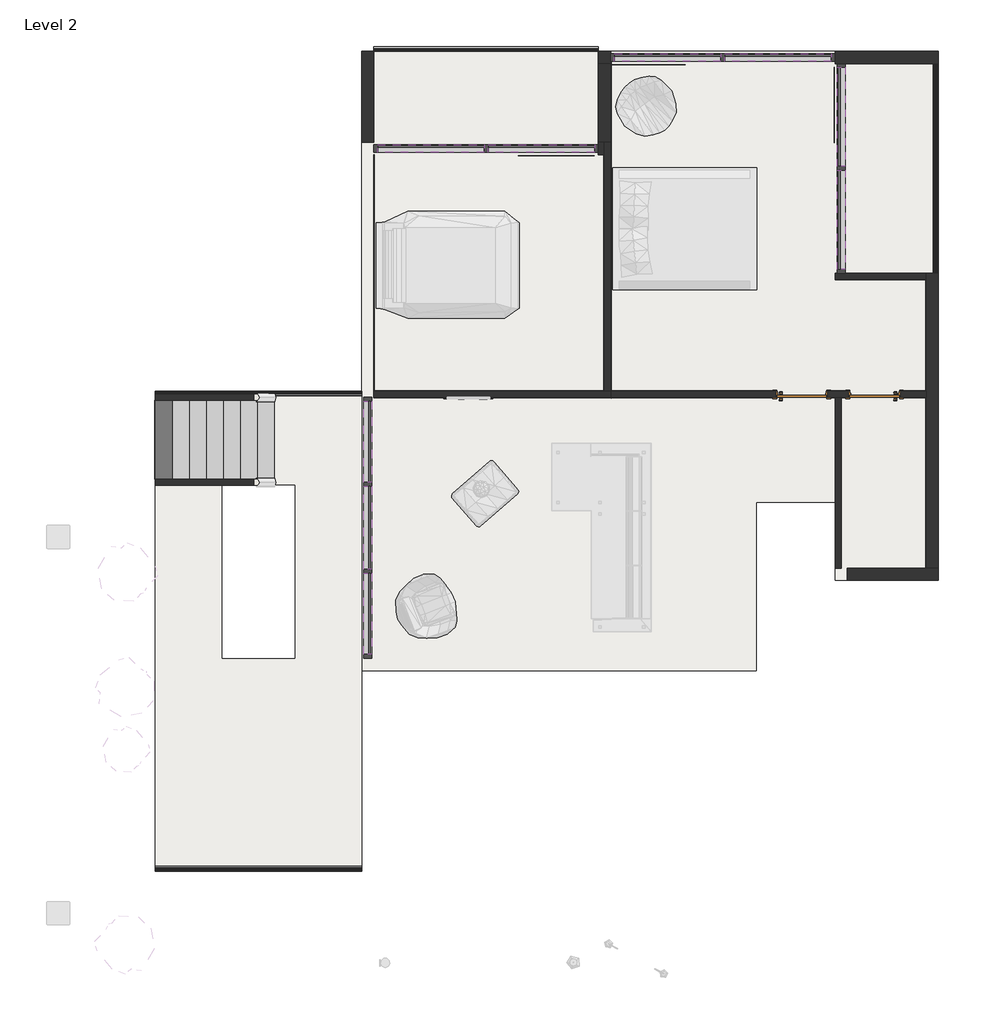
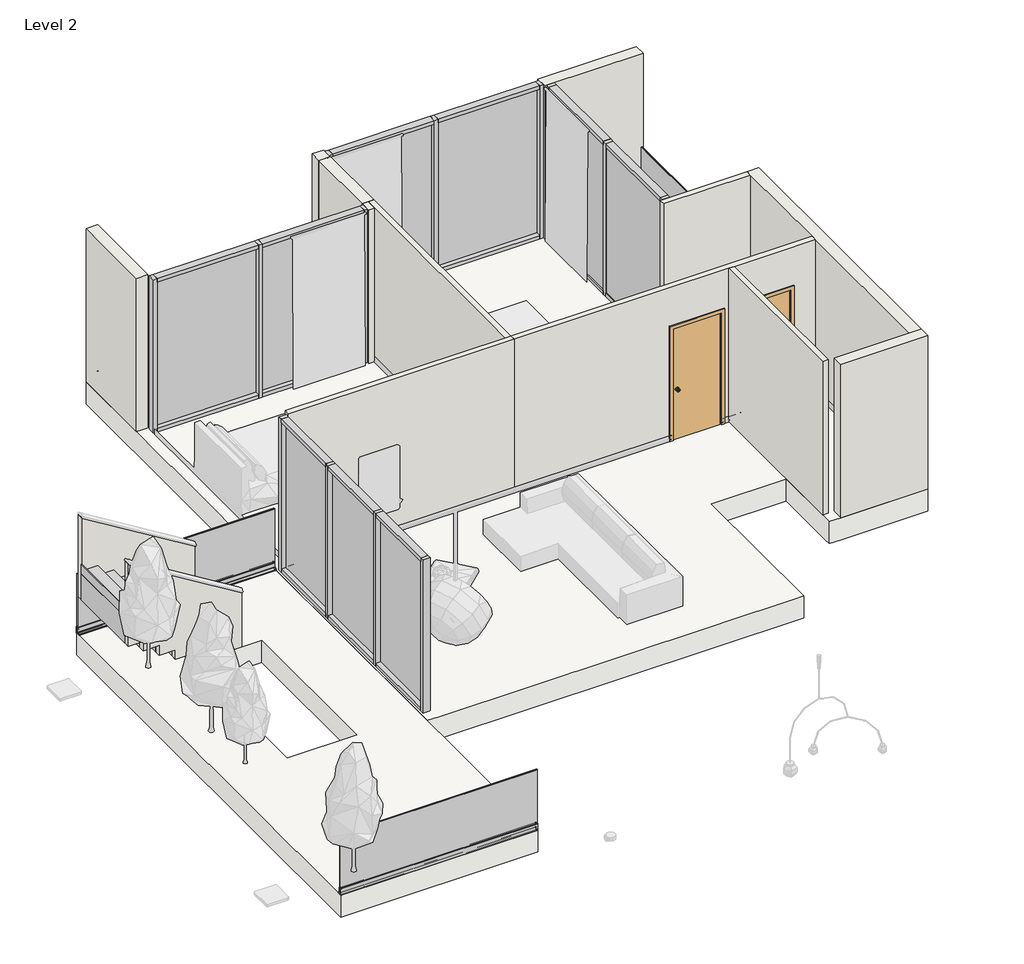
# One storey, part 1 of 4: 31 members, 13 walls, 9 plates, 4 railings, 2 doors, 2 slabs, 1 stair flight.
"""IFC4 building model written with IfcOpenShell, lengths in millimetres."""

from ifc_helpers import new_model, si_unit, frame, origin, place, context, project, spatial, polyline, outline, extrude, faceted_brep, transform, mapped, element, save
from components import door_interior_single_flush_panel_wood_door_interior_single_6c8a464a, door_interior_single_flush_panel_wood_door_interior_single_45b1ecc8, rectangular_mullion_rectangular_mullion_1_b61fd584, rectangular_mullion_rectangular_mullion_1_bbb34006, rectangular_mullion_rectangular_mullion_1_74c23462, rectangular_mullion_rectangular_mullion_1_bf3e4f7e, rectangular_mullion_rectangular_mullion_1_7a1af1f4, rectangular_mullion_rectangular_mullion_1_694252b1, system_panel_glazed_9b324d6a, system_panel_glazed_6573672e, system_panel_glazed_77a44a71, system_panel_glazed_dbac97f0, railing_b5ce3a73, railing_0a93fae2, railing_5e96fa47, railing_be181984

model = new_model("IFC4")

# Units and contexts
model_context = context("Model", 3, world=origin())
ifc_project = project(units=[si_unit("LENGTHUNIT", "METRE", prefix="MILLI")], contexts=[model_context])

# Site, building, storey
site = spatial("IfcSite", under=ifc_project)
building = spatial("IfcBuilding", under=site)
storey = spatial("IfcBuildingStorey", under=building, Name="Level 2", Elevation=4200.0)

# Doors
placement = place(None, origin())
door_interior_single_flush_panel_wood_door_interior_single_shape = door_interior_single_flush_panel_wood_door_interior_single_6c8a464a(model_context)
element("IfcDoor", 1, ObjectType="Door-Interior-Single-Flush_Panel-Wood : Door-Interior-Single-Flush_Panel-Wood", at=placement, inside=storey, context=model_context, shape_type="MappedRepresentation", body=[
    mapped(door_interior_single_flush_panel_wood_door_interior_single_shape, transform((23993.1337784, 13113.7456658, 4200.0), x_axis=(1.0, 0.0, 0.0), y_axis=(0.0, 1.0, 0.0), z_axis=(0.0, 0.0, 1.0))),
])
door_interior_single_flush_panel_wood_door_interior_single_2_shape = door_interior_single_flush_panel_wood_door_interior_single_45b1ecc8(model_context)
element("IfcDoor", 2, ObjectType="Door-Interior-Single-Flush_Panel-Wood : Door-Interior-Single-Flush_Panel-Wood", at=placement, inside=storey, context=model_context, shape_type="MappedRepresentation", body=[
    mapped(door_interior_single_flush_panel_wood_door_interior_single_2_shape, transform((25193.1337784, 13113.7456658, 4200.0), x_axis=(-1.0, 0.0, 0.0), y_axis=(0.0, -1.0, 0.0), z_axis=(0.0, 0.0, 1.0))),
])

# Members
rectangular_mullion_rectangular_mullion_1_shape = rectangular_mullion_rectangular_mullion_1_b61fd584(model_context)
element("IfcMember", 3, ObjectType="Rectangular Mullion : Rectangular Mullion 1", at=placement, inside=storey, context=model_context, shape_type="MappedRepresentation", body=[
    mapped(rectangular_mullion_rectangular_mullion_1_shape, transform((22693.1337784, 18666.9206658, 4200.0), x_axis=(1.0, 0.0, 0.0), y_axis=(0.0, -1.0, 0.0), z_axis=(0.0, 0.0, -1.0))),
])
element("IfcMember", 4, ObjectType="Rectangular Mullion : Rectangular Mullion 1", at=placement, inside=storey, context=model_context, shape_type="MappedRepresentation", body=[
    mapped(rectangular_mullion_rectangular_mullion_1_shape, transform((18793.1337784, 17166.9206658, 4200.0), x_axis=(1.0, 0.0, 0.0), y_axis=(0.0, -1.0, 0.0), z_axis=(0.0, 0.0, -1.0))),
])
element("IfcMember", 5, ObjectType="Rectangular Mullion : Rectangular Mullion 1", at=placement, inside=storey, context=model_context, shape_type="MappedRepresentation", body=[
    mapped(rectangular_mullion_rectangular_mullion_1_shape, transform((16843.1337784, 11633.5873324, 4200.0), x_axis=(0.0, -1.0, 0.0), y_axis=(-1.0, 0.0, 0.0), z_axis=(0.0, 0.0, -1.0))),
])
element("IfcMember", 6, ObjectType="Rectangular Mullion : Rectangular Mullion 1", at=placement, inside=storey, context=model_context, shape_type="MappedRepresentation", body=[
    mapped(rectangular_mullion_rectangular_mullion_1_shape, transform((16843.1337784, 10200.2539993, 4200.0), x_axis=(0.0, -1.0, 0.0), y_axis=(-1.0, 0.0, 0.0), z_axis=(0.0, 0.0, -1.0))),
])
element("IfcMember", 7, ObjectType="Rectangular Mullion : Rectangular Mullion 1", at=placement, inside=storey, context=model_context, shape_type="MappedRepresentation", body=[
    mapped(rectangular_mullion_rectangular_mullion_1_shape, transform((24643.1337784, 16839.3180564, 4200.0), x_axis=(0.0, 1.0, 0.0), y_axis=(1.0, 0.0, 0.0), z_axis=(0.0, 0.0, -1.0))),
])
rectangular_mullion_rectangular_mullion_1_2_shape = rectangular_mullion_rectangular_mullion_1_bbb34006(model_context)
element("IfcMember", 8, ObjectType="Rectangular Mullion : Rectangular Mullion 1", at=placement, inside=storey, context=model_context, shape_type="MappedRepresentation", body=[
    mapped(rectangular_mullion_rectangular_mullion_1_2_shape, transform((20843.1337784, 18666.9206658, 7000.0), x_axis=(-1.0, 0.0, 0.0), y_axis=(0.0, -1.0, 0.0), z_axis=(0.0, 0.0, 1.0))),
])
element("IfcMember", 9, ObjectType="Rectangular Mullion : Rectangular Mullion 1", at=placement, inside=storey, context=model_context, shape_type="MappedRepresentation", body=[
    mapped(rectangular_mullion_rectangular_mullion_1_2_shape, transform((16943.1337784, 17166.9206658, 7000.0), x_axis=(-1.0, 0.0, 0.0), y_axis=(0.0, -1.0, 0.0), z_axis=(0.0, 0.0, 1.0))),
])
element("IfcMember", 10, ObjectType="Rectangular Mullion : Rectangular Mullion 1", at=placement, inside=storey, context=model_context, shape_type="MappedRepresentation", body=[
    mapped(rectangular_mullion_rectangular_mullion_1_2_shape, transform((16843.1337784, 13066.9206658, 7000.0), x_axis=(0.0, 1.0, 0.0), y_axis=(-1.0, 0.0, 0.0), z_axis=(0.0, 0.0, 1.0))),
])
element("IfcMember", 11, ObjectType="Rectangular Mullion : Rectangular Mullion 1", at=placement, inside=storey, context=model_context, shape_type="MappedRepresentation", body=[
    mapped(rectangular_mullion_rectangular_mullion_1_2_shape, transform((24643.1337784, 15111.715447, 7000.0), x_axis=(0.0, -1.0, 0.0), y_axis=(1.0, 0.0, 0.0), z_axis=(0.0, 0.0, 1.0))),
])
element("IfcMember", 12, ObjectType="Rectangular Mullion : Rectangular Mullion 1", at=placement, inside=storey, context=model_context, shape_type="MappedRepresentation", body=[
    mapped(rectangular_mullion_rectangular_mullion_1_2_shape, transform((24543.1337784, 18666.9206658, 4200.0), x_axis=(1.0, 0.0, 0.0), y_axis=(0.0, -1.0, 0.0), z_axis=(0.0, 0.0, -1.0))),
])
element("IfcMember", 13, ObjectType="Rectangular Mullion : Rectangular Mullion 1", at=placement, inside=storey, context=model_context, shape_type="MappedRepresentation", body=[
    mapped(rectangular_mullion_rectangular_mullion_1_2_shape, transform((20643.1337784, 17166.9206658, 4200.0), x_axis=(1.0, 0.0, 0.0), y_axis=(0.0, -1.0, 0.0), z_axis=(0.0, 0.0, -1.0))),
])
element("IfcMember", 14, ObjectType="Rectangular Mullion : Rectangular Mullion 1", at=placement, inside=storey, context=model_context, shape_type="MappedRepresentation", body=[
    mapped(rectangular_mullion_rectangular_mullion_1_2_shape, transform((16843.1337784, 8766.9206658, 4200.0), x_axis=(0.0, -1.0, 0.0), y_axis=(-1.0, 0.0, 0.0), z_axis=(0.0, 0.0, -1.0))),
])
element("IfcMember", 15, ObjectType="Rectangular Mullion : Rectangular Mullion 1", at=placement, inside=storey, context=model_context, shape_type="MappedRepresentation", body=[
    mapped(rectangular_mullion_rectangular_mullion_1_2_shape, transform((24643.1337784, 18566.9206658, 4200.0), x_axis=(0.0, 1.0, 0.0), y_axis=(1.0, 0.0, 0.0), z_axis=(0.0, 0.0, -1.0))),
])
rectangular_mullion_rectangular_mullion_1_3_shape = rectangular_mullion_rectangular_mullion_1_74c23462(model_context)
element("IfcMember", 16, ObjectType="Rectangular Mullion : Rectangular Mullion 1", at=placement, inside=storey, context=model_context, shape_type="MappedRepresentation", body=[
    mapped(rectangular_mullion_rectangular_mullion_1_3_shape, transform((16843.1337784, 10232.0039993, 7000.0), x_axis=(0.0, 0.0, 1.0), y_axis=(-1.0, 0.0, 0.0), z_axis=(0.0, -1.0, 0.0))),
])
rectangular_mullion_rectangular_mullion_1_4_shape = rectangular_mullion_rectangular_mullion_1_bf3e4f7e(model_context)
element("IfcMember", 17, ObjectType="Rectangular Mullion : Rectangular Mullion 1", at=placement, inside=storey, context=model_context, shape_type="MappedRepresentation", body=[
    mapped(rectangular_mullion_rectangular_mullion_1_4_shape, transform((16843.1337784, 11665.3373324, 7000.0), x_axis=(0.0, 0.0, 1.0), y_axis=(-1.0, 0.0, 0.0), z_axis=(0.0, -1.0, 0.0))),
])
element("IfcMember", 18, ObjectType="Rectangular Mullion : Rectangular Mullion 1", at=placement, inside=storey, context=model_context, shape_type="MappedRepresentation", body=[
    mapped(rectangular_mullion_rectangular_mullion_1_4_shape, transform((16843.1337784, 8830.4206658, 7000.0), x_axis=(0.0, 0.0, 1.0), y_axis=(-1.0, 0.0, 0.0), z_axis=(0.0, -1.0, 0.0))),
])
element("IfcMember", 19, ObjectType="Rectangular Mullion : Rectangular Mullion 1", at=placement, inside=storey, context=model_context, shape_type="MappedRepresentation", body=[
    mapped(rectangular_mullion_rectangular_mullion_1_4_shape, transform((16843.1337784, 10168.5039993, 4200.0), x_axis=(0.0, 0.0, -1.0), y_axis=(-1.0, 0.0, 0.0), z_axis=(0.0, 1.0, 0.0))),
])
element("IfcMember", 20, ObjectType="Rectangular Mullion : Rectangular Mullion 1", at=placement, inside=storey, context=model_context, shape_type="MappedRepresentation", body=[
    mapped(rectangular_mullion_rectangular_mullion_1_4_shape, transform((16843.1337784, 13003.4206658, 4200.0), x_axis=(0.0, 0.0, -1.0), y_axis=(-1.0, 0.0, 0.0), z_axis=(0.0, 1.0, 0.0))),
])
element("IfcMember", 21, ObjectType="Rectangular Mullion : Rectangular Mullion 1", at=placement, inside=storey, context=model_context, shape_type="MappedRepresentation", body=[
    mapped(rectangular_mullion_rectangular_mullion_1_3_shape, transform((16843.1337784, 11601.8373324, 4200.0), x_axis=(0.0, 0.0, -1.0), y_axis=(-1.0, 0.0, 0.0), z_axis=(0.0, 1.0, 0.0))),
])
rectangular_mullion_rectangular_mullion_1_5_shape = rectangular_mullion_rectangular_mullion_1_7a1af1f4(model_context)
element("IfcMember", 22, ObjectType="Rectangular Mullion : Rectangular Mullion 1", at=placement, inside=storey, context=model_context, shape_type="MappedRepresentation", body=[
    mapped(rectangular_mullion_rectangular_mullion_1_5_shape, transform((24643.1337784, 16871.0680564, 4200.0), x_axis=(0.0, 0.0, -1.0), y_axis=(1.0, 0.0, 0.0), z_axis=(0.0, -1.0, 0.0))),
])
element("IfcMember", 23, ObjectType="Rectangular Mullion : Rectangular Mullion 1", at=placement, inside=storey, context=model_context, shape_type="MappedRepresentation", body=[
    mapped(rectangular_mullion_rectangular_mullion_1_5_shape, transform((24643.1337784, 15175.215447, 4200.0), x_axis=(0.0, 0.0, -1.0), y_axis=(1.0, 0.0, 0.0), z_axis=(0.0, -1.0, 0.0))),
])
element("IfcMember", 24, ObjectType="Rectangular Mullion : Rectangular Mullion 1", at=placement, inside=storey, context=model_context, shape_type="MappedRepresentation", body=[
    mapped(rectangular_mullion_rectangular_mullion_1_5_shape, transform((24643.1337784, 16807.5680564, 7000.0), x_axis=(0.0, 0.0, 1.0), y_axis=(1.0, 0.0, 0.0), z_axis=(0.0, 1.0, 0.0))),
])
element("IfcMember", 25, ObjectType="Rectangular Mullion : Rectangular Mullion 1", at=placement, inside=storey, context=model_context, shape_type="MappedRepresentation", body=[
    mapped(rectangular_mullion_rectangular_mullion_1_5_shape, transform((24643.1337784, 18503.4206658, 7000.0), x_axis=(0.0, 0.0, 1.0), y_axis=(1.0, 0.0, 0.0), z_axis=(0.0, 1.0, 0.0))),
])
rectangular_mullion_rectangular_mullion_1_6_shape = rectangular_mullion_rectangular_mullion_1_694252b1(model_context)
element("IfcMember", 26, ObjectType="Rectangular Mullion : Rectangular Mullion 1", at=placement, inside=storey, context=model_context, shape_type="MappedRepresentation", body=[
    mapped(rectangular_mullion_rectangular_mullion_1_6_shape, transform((22661.3837784, 18666.9206658, 7000.0), x_axis=(0.0, 0.0, 1.0), y_axis=(0.0, -1.0, 0.0), z_axis=(1.0, 0.0, 0.0))),
])
element("IfcMember", 27, ObjectType="Rectangular Mullion : Rectangular Mullion 1", at=placement, inside=storey, context=model_context, shape_type="MappedRepresentation", body=[
    mapped(rectangular_mullion_rectangular_mullion_1_6_shape, transform((24479.6337784, 18666.9206658, 7000.0), x_axis=(0.0, 0.0, 1.0), y_axis=(0.0, -1.0, 0.0), z_axis=(1.0, 0.0, 0.0))),
])
element("IfcMember", 28, ObjectType="Rectangular Mullion : Rectangular Mullion 1", at=placement, inside=storey, context=model_context, shape_type="MappedRepresentation", body=[
    mapped(rectangular_mullion_rectangular_mullion_1_6_shape, transform((18761.3837784, 17166.9206658, 7000.0), x_axis=(0.0, 0.0, 1.0), y_axis=(0.0, -1.0, 0.0), z_axis=(1.0, 0.0, 0.0))),
])
element("IfcMember", 29, ObjectType="Rectangular Mullion : Rectangular Mullion 1", at=placement, inside=storey, context=model_context, shape_type="MappedRepresentation", body=[
    mapped(rectangular_mullion_rectangular_mullion_1_6_shape, transform((20579.6337784, 17166.9206658, 7000.0), x_axis=(0.0, 0.0, 1.0), y_axis=(0.0, -1.0, 0.0), z_axis=(1.0, 0.0, 0.0))),
])
element("IfcMember", 30, ObjectType="Rectangular Mullion : Rectangular Mullion 1", at=placement, inside=storey, context=model_context, shape_type="MappedRepresentation", body=[
    mapped(rectangular_mullion_rectangular_mullion_1_6_shape, transform((22724.8837784, 18666.9206658, 4200.0), x_axis=(0.0, 0.0, -1.0), y_axis=(0.0, -1.0, 0.0), z_axis=(-1.0, 0.0, 0.0))),
])
element("IfcMember", 31, ObjectType="Rectangular Mullion : Rectangular Mullion 1", at=placement, inside=storey, context=model_context, shape_type="MappedRepresentation", body=[
    mapped(rectangular_mullion_rectangular_mullion_1_6_shape, transform((20906.6337784, 18666.9206658, 4200.0), x_axis=(0.0, 0.0, -1.0), y_axis=(0.0, -1.0, 0.0), z_axis=(-1.0, 0.0, 0.0))),
])
element("IfcMember", 32, ObjectType="Rectangular Mullion : Rectangular Mullion 1", at=placement, inside=storey, context=model_context, shape_type="MappedRepresentation", body=[
    mapped(rectangular_mullion_rectangular_mullion_1_6_shape, transform((18824.8837784, 17166.9206658, 4200.0), x_axis=(0.0, 0.0, -1.0), y_axis=(0.0, -1.0, 0.0), z_axis=(-1.0, 0.0, 0.0))),
])
element("IfcMember", 33, ObjectType="Rectangular Mullion : Rectangular Mullion 1", at=placement, inside=storey, context=model_context, shape_type="MappedRepresentation", body=[
    mapped(rectangular_mullion_rectangular_mullion_1_6_shape, transform((17006.6337784, 17166.9206658, 4200.0), x_axis=(0.0, 0.0, -1.0), y_axis=(0.0, -1.0, 0.0), z_axis=(-1.0, 0.0, 0.0))),
])

# Plates
system_panel_glazed_shape = system_panel_glazed_9b324d6a(model_context)
element("IfcPlate", 34, ObjectType="System Panel : Glazed", at=placement, inside=storey, context=model_context, shape_type="MappedRepresentation", body=[
    mapped(system_panel_glazed_shape, transform((16843.1337784, 12334.3789991, 4263.5), x_axis=(0.0, -1.0, 0.0), y_axis=(1.0, 0.0, 0.0), z_axis=(0.0, 0.0, 1.0))),
])
element("IfcPlate", 35, ObjectType="System Panel : Glazed", at=placement, inside=storey, context=model_context, shape_type="MappedRepresentation", body=[
    mapped(system_panel_glazed_shape, transform((16843.1337784, 9499.4623326, 4263.5), x_axis=(0.0, -1.0, 0.0), y_axis=(1.0, 0.0, 0.0), z_axis=(0.0, 0.0, 1.0))),
])
system_panel_glazed_2_shape = system_panel_glazed_6573672e(model_context)
element("IfcPlate", 36, ObjectType="System Panel : Glazed", at=placement, inside=storey, context=model_context, shape_type="MappedRepresentation", body=[
    mapped(system_panel_glazed_2_shape, transform((16843.1337784, 10916.9206658, 4263.5), x_axis=(0.0, -1.0, 0.0), y_axis=(1.0, 0.0, 0.0), z_axis=(0.0, 0.0, 1.0))),
])
system_panel_glazed_3_shape = system_panel_glazed_77a44a71(model_context)
element("IfcPlate", 37, ObjectType="System Panel : Glazed", at=placement, inside=storey, context=model_context, shape_type="MappedRepresentation", body=[
    mapped(system_panel_glazed_3_shape, transform((24643.1337784, 15991.3917517, 4263.5), x_axis=(0.0, 1.0, 0.0), y_axis=(-1.0, 0.0, 0.0), z_axis=(0.0, 0.0, 1.0))),
])
element("IfcPlate", 38, ObjectType="System Panel : Glazed", at=placement, inside=storey, context=model_context, shape_type="MappedRepresentation", body=[
    mapped(system_panel_glazed_3_shape, transform((24643.1337784, 17687.2443611, 4263.5), x_axis=(0.0, 1.0, 0.0), y_axis=(-1.0, 0.0, 0.0), z_axis=(0.0, 0.0, 1.0))),
])
system_panel_glazed_4_shape = system_panel_glazed_dbac97f0(model_context)
element("IfcPlate", 39, ObjectType="System Panel : Glazed", at=placement, inside=storey, context=model_context, shape_type="MappedRepresentation", body=[
    mapped(system_panel_glazed_4_shape, transform((21784.0087784, 18666.9206658, 4263.5), x_axis=(1.0, 0.0, 0.0), y_axis=(0.0, 1.0, 0.0), z_axis=(0.0, 0.0, 1.0))),
])
element("IfcPlate", 40, ObjectType="System Panel : Glazed", at=placement, inside=storey, context=model_context, shape_type="MappedRepresentation", body=[
    mapped(system_panel_glazed_4_shape, transform((23602.2587784, 18666.9206658, 4263.5), x_axis=(1.0, 0.0, 0.0), y_axis=(0.0, 1.0, 0.0), z_axis=(0.0, 0.0, 1.0))),
])
element("IfcPlate", 41, ObjectType="System Panel : Glazed", at=placement, inside=storey, context=model_context, shape_type="MappedRepresentation", body=[
    mapped(system_panel_glazed_4_shape, transform((17884.0087784, 17166.9206658, 4263.5), x_axis=(1.0, 0.0, 0.0), y_axis=(0.0, 1.0, 0.0), z_axis=(0.0, 0.0, 1.0))),
])
element("IfcPlate", 42, ObjectType="System Panel : Glazed", at=placement, inside=storey, context=model_context, shape_type="MappedRepresentation", body=[
    mapped(system_panel_glazed_4_shape, transform((19702.2587784, 17166.9206658, 4263.5), x_axis=(1.0, 0.0, 0.0), y_axis=(0.0, 1.0, 0.0), z_axis=(0.0, 0.0, 1.0))),
])

# Railings
railing_shape = railing_b5ce3a73(model_context)
element("IfcRailing", 43, ObjectType="Glass Rail EXL-12481 h=1100mm", at=placement, inside=storey, context=model_context, shape_type="MappedRepresentation", body=[
    mapped(railing_shape, transform((0.0, 0.0, 0.0), x_axis=(1.0, 0.0, 0.0), y_axis=(0.0, 1.0, 0.0), z_axis=(0.0, 0.0, 1.0))),
])
railing_2_shape = railing_0a93fae2(model_context)
element("IfcRailing", 44, ObjectType="Glass Rail EXL-12481 h=1100mm", at=placement, inside=storey, context=model_context, shape_type="MappedRepresentation", body=[
    mapped(railing_2_shape, transform((0.0, 0.0, 0.0), x_axis=(1.0, 0.0, 0.0), y_axis=(0.0, 1.0, 0.0), z_axis=(0.0, 0.0, 1.0))),
])
railing_3_shape = railing_5e96fa47(model_context)
element("IfcRailing", 45, ObjectType="Glass Rail EXL-12481 h=1100mm", at=placement, inside=storey, context=model_context, shape_type="MappedRepresentation", body=[
    mapped(railing_3_shape, transform((0.0, 0.0, 0.0), x_axis=(1.0, 0.0, 0.0), y_axis=(0.0, 1.0, 0.0), z_axis=(0.0, 0.0, 1.0))),
])
railing_4_shape = railing_be181984(model_context)
element("IfcRailing", 46, ObjectType="Glass Rail EXL-12481 h=1100mm", at=placement, inside=storey, context=model_context, shape_type="MappedRepresentation", body=[
    mapped(railing_4_shape, transform((0.0, 0.0, 0.0), x_axis=(1.0, 0.0, 0.0), y_axis=(0.0, 1.0, 0.0), z_axis=(0.0, 0.0, 1.0))),
])

# Slabs
element("IfcSlab", 47, ObjectType="Concrete Slab - 6\"", at=placement, inside=storey, context=model_context, shape_type="Brep", body=[
    faceted_brep([(16743.1337784, 18766.9206658, 3800.0), (26243.1337784, 18766.9206658, 3800.0), (26243.1337784, 10054.720421, 3800.0), (24743.1337784, 10054.720421, 3800.0), (24543.1337784, 10054.720421, 3800.0), (24543.1337784, 10154.720421, 3800.0), (24543.1337784, 11342.257391, 3800.0), (23243.1337784, 11342.257391, 3800.0), (23243.1337784, 8566.9206658, 3800.0), (16943.1337784, 8566.9206658, 3800.0), (16743.1337784, 8566.9206658, 3800.0), (16743.1337784, 13166.9206658, 3800.0), (16743.1337784, 18766.9206658, 4200.0), (16743.1337784, 17266.9206658, 4200.0), (16743.1337784, 13066.9206658, 4200.0), (16743.1337784, 8766.9206658, 4200.0), (16743.1337784, 8566.9206658, 4200.0), (16943.1337784, 8566.9206658, 4200.0), (23243.1337784, 8566.9206658, 4200.0), (23243.1337784, 11342.257391, 4200.0), (24543.1337784, 11342.257391, 4200.0), (24543.1337784, 10254.720421, 4200.0), (24543.1337784, 10054.720421, 4200.0), (24743.1337784, 10054.720421, 4200.0), (26243.1337784, 10054.720421, 4200.0), (26243.1337784, 10254.720421, 4200.0), (26243.1337784, 15111.715447, 4200.0), (26243.1337784, 18766.9206658, 4200.0)], [[[0, 1, 2, 3, 4, 5, 6, 7, 8, 9, 10, 11]], [[12, 13, 14, 15, 16, 17, 18, 19, 20, 21, 22, 23, 24, 25, 26, 27]], [[10, 9, 8, 18, 17, 16]], [[0, 11, 10, 16, 15, 14, 13, 12]], [[8, 7, 19, 18]], [[1, 0, 12, 27]], [[2, 1, 27, 26, 25, 24]], [[4, 3, 2, 24, 23, 22]], [[6, 5, 4, 22, 21, 20]], [[7, 6, 20, 19]]]),
])
element("IfcSlab", 48, ObjectType="Concrete Slab - 6\"", at=placement, inside=storey, context=model_context, shape_type="SweptSolid", body=[
    extrude(outline(polyline([(16743.1337784, 13166.9206658), (16743.1337784, 5266.9206658), (13343.1337784, 5266.9206658), (13343.1337784, 13166.9206658), (16743.1337784, 13166.9206658)]), holes=[polyline([(15643.1337784, 11616.4728324), (14443.1337784, 11616.4728324), (14443.1337784, 8766.9206658), (15643.1337784, 8766.9206658), (15643.1337784, 11616.4728324)])]), frame((0.0, 0.0, 3800.0), z_axis=(0.0, 0.0, 1.0), x_axis=(1.0, 0.0, 0.0)), (0.0, 0.0, 1.0), 400.0),
])

# Stair flight
element("IfcStairFlight", 49, ObjectType="3/4\" Nosing", at=placement, inside=storey, context=model_context, shape_type="SolidModel", body=[
    faceted_brep([(15013.1837784, 11716.4728324, 4324.2), (15292.5837784, 11716.4728324, 4324.2), (15292.5837784, 13016.4728324, 4324.2), (15013.1837784, 13016.4728324, 4324.2), (15013.1837784, 11716.4728324, 4200.0), (15292.5837784, 11716.4728324, 4200.0), (15292.5837784, 13016.4728324, 4200.0), (15013.1837784, 13016.4728324, 4200.0), (14733.7837784, 11716.4728324, 4499.2), (15013.1837784, 11716.4728324, 4499.2), (15013.1837784, 13016.4728324, 4499.2), (14733.7837784, 13016.4728324, 4499.2), (14733.7837784, 11716.4728324, 4200.0), (14733.7837784, 13016.4728324, 4200.0), (14454.3837784, 11716.4728324, 4674.2), (14733.7837784, 11716.4728324, 4674.2), (14733.7837784, 13016.4728324, 4674.2), (14454.3837784, 13016.4728324, 4674.2), (14454.3837784, 11716.4728324, 4200.0), (14454.3837784, 13016.4728324, 4200.0), (14174.9837784, 11716.4728324, 4849.2), (14454.3837784, 11716.4728324, 4849.2), (14454.3837784, 13016.4728324, 4849.2), (14174.9837784, 13016.4728324, 4849.2), (14174.9837784, 11716.4728324, 4374.2), (14433.7837784, 11716.4728324, 4374.2), (14433.7837784, 11716.4728324, 4200.0), (14433.7837784, 13016.4728324, 4200.0), (14433.7837784, 13016.4728324, 4374.2), (14174.9837784, 13016.4728324, 4374.2), (13895.5837784, 11716.4728324, 5024.2), (14174.9837784, 11716.4728324, 5024.2), (14174.9837784, 13016.4728324, 5024.2), (13895.5837784, 13016.4728324, 5024.2), (13895.5837784, 11716.4728324, 4549.2), (14154.3837784, 11716.4728324, 4549.2), (14154.3837784, 11716.4728324, 4374.2), (14154.3837784, 13016.4728324, 4374.2), (14154.3837784, 13016.4728324, 4549.2), (13895.5837784, 13016.4728324, 4549.2), (13616.1837784, 11716.4728324, 5199.2), (13895.5837784, 11716.4728324, 5199.2), (13895.5837784, 13016.4728324, 5199.2), (13616.1837784, 13016.4728324, 5199.2), (13616.1837784, 11716.4728324, 4724.2), (13874.9837784, 11716.4728324, 4724.2), (13874.9837784, 11716.4728324, 4549.2), (13874.9837784, 13016.4728324, 4549.2), (13874.9837784, 13016.4728324, 4724.2), (13616.1837784, 13016.4728324, 4724.2), (13336.7837784, 11716.4728324, 5374.2), (13616.1837784, 11716.4728324, 5374.2), (13616.1837784, 13016.4728324, 5374.2), (13336.7837784, 13016.4728324, 5374.2), (13336.7837784, 11716.4728324, 4899.2), (13595.5837784, 11716.4728324, 4899.2), (13595.5837784, 11716.4728324, 4724.2), (13595.5837784, 13016.4728324, 4724.2), (13595.5837784, 13016.4728324, 4899.2), (13336.7837784, 13016.4728324, 4899.2)], [[[0, 1, 2, 3]], [[1, 0, 4, 5]], [[2, 1, 5, 6]], [[3, 2, 6, 7]], [[8, 9, 10, 11]], [[4, 0, 9, 8, 12]], [[0, 3, 10, 9]], [[3, 7, 13, 11, 10]], [[14, 15, 16, 17]], [[12, 8, 15, 14, 18]], [[8, 11, 16, 15]], [[11, 13, 19, 17, 16]], [[20, 21, 22, 23]], [[18, 14, 21, 20, 24, 25, 26]], [[14, 17, 22, 21]], [[17, 19, 27, 28, 29, 23, 22]], [[30, 31, 32, 33]], [[31, 30, 34, 35, 36, 24, 20]], [[20, 23, 32, 31]], [[33, 32, 23, 29, 37, 38, 39]], [[40, 41, 42, 43]], [[41, 40, 44, 45, 46, 34, 30]], [[30, 33, 42, 41]], [[43, 42, 33, 39, 47, 48, 49]], [[50, 51, 52, 53]], [[51, 50, 54, 55, 56, 44, 40]], [[40, 43, 52, 51]], [[53, 52, 43, 49, 57, 58, 59]], [[50, 53, 59, 54]], [[5, 4, 12, 18, 26, 27, 19, 13, 7, 6]], [[25, 28, 27, 26]], [[36, 37, 29, 28, 25, 24]], [[37, 36, 35, 38]], [[46, 47, 39, 38, 35, 34]], [[47, 46, 45, 48]], [[56, 57, 49, 48, 45, 44]], [[57, 56, 55, 58]], [[58, 55, 54, 59]]]),
    extrude(outline(polyline([(15019.5337784, 11716.4728324), (15019.5337784, 13016.4728324), (15298.9337784, 13016.4728324), (15298.9337784, 11716.4728324), (15019.5337784, 11716.4728324)])), frame((0.0, 0.0, 4324.2), z_axis=(0.0, 0.0, 1.0), x_axis=(1.0, 0.0, 0.0)), (0.0, 0.0, 1.0), 50.8),
    extrude(outline(polyline([(14740.1337784, 11716.4728324), (14740.1337784, 13016.4728324), (15019.5337784, 13016.4728324), (15019.5337784, 11716.4728324), (14740.1337784, 11716.4728324)])), frame((0.0, 0.0, 4499.2), z_axis=(0.0, 0.0, 1.0), x_axis=(1.0, 0.0, 0.0)), (0.0, 0.0, 1.0), 50.8),
    extrude(outline(polyline([(14460.7337784, 11716.4728324), (14460.7337784, 13016.4728324), (14740.1337784, 13016.4728324), (14740.1337784, 11716.4728324), (14460.7337784, 11716.4728324)])), frame((0.0, 0.0, 4674.2), z_axis=(0.0, 0.0, 1.0), x_axis=(1.0, 0.0, 0.0)), (0.0, 0.0, 1.0), 50.8),
    extrude(outline(polyline([(14181.3337784, 11716.4728324), (14181.3337784, 13016.4728324), (14460.7337784, 13016.4728324), (14460.7337784, 11716.4728324), (14181.3337784, 11716.4728324)])), frame((0.0, 0.0, 4849.2), z_axis=(0.0, 0.0, 1.0), x_axis=(1.0, 0.0, 0.0)), (0.0, 0.0, 1.0), 50.8),
    extrude(outline(polyline([(13901.9337784, 11716.4728324), (13901.9337784, 13016.4728324), (14181.3337784, 13016.4728324), (14181.3337784, 11716.4728324), (13901.9337784, 11716.4728324)])), frame((0.0, 0.0, 5024.2), z_axis=(0.0, 0.0, 1.0), x_axis=(1.0, 0.0, 0.0)), (0.0, 0.0, 1.0), 50.8),
    extrude(outline(polyline([(13622.5337784, 11716.4728324), (13622.5337784, 13016.4728324), (13901.9337784, 13016.4728324), (13901.9337784, 11716.4728324), (13622.5337784, 11716.4728324)])), frame((0.0, 0.0, 5199.2), z_axis=(0.0, 0.0, 1.0), x_axis=(1.0, 0.0, 0.0)), (0.0, 0.0, 1.0), 50.8),
    extrude(outline(polyline([(13343.1337784, 11716.4728324), (13343.1337784, 13016.4728324), (13622.5337784, 13016.4728324), (13622.5337784, 11716.4728324), (13343.1337784, 11716.4728324)])), frame((0.0, 0.0, 5374.2), z_axis=(0.0, 0.0, 1.0), x_axis=(1.0, 0.0, 0.0)), (0.0, 0.0, 1.0), 50.8),
    extrude(outline(polyline([(15292.5837784, 13016.4728324), (15298.9337784, 13016.4728324), (15298.9337784, 11716.4728324), (15292.5837784, 11716.4728324), (15292.5837784, 13016.4728324)])), frame((0.0, 0.0, 4200.0), z_axis=(0.0, 0.0, 1.0), x_axis=(1.0, 0.0, 0.0)), (0.0, 0.0, 1.0), 124.2),
    extrude(outline(polyline([(15013.1837784, 13016.4728324), (15019.5337784, 13016.4728324), (15019.5337784, 11716.4728324), (15013.1837784, 11716.4728324), (15013.1837784, 13016.4728324)])), frame((0.0, 0.0, 4324.2), z_axis=(0.0, 0.0, 1.0), x_axis=(1.0, 0.0, 0.0)), (0.0, 0.0, 1.0), 175.0),
    extrude(outline(polyline([(14733.7837784, 13016.4728324), (14740.1337784, 13016.4728324), (14740.1337784, 11716.4728324), (14733.7837784, 11716.4728324), (14733.7837784, 13016.4728324)])), frame((0.0, 0.0, 4499.2), z_axis=(0.0, 0.0, 1.0), x_axis=(1.0, 0.0, 0.0)), (0.0, 0.0, 1.0), 175.0),
    extrude(outline(polyline([(14454.3837784, 13016.4728324), (14460.7337784, 13016.4728324), (14460.7337784, 11716.4728324), (14454.3837784, 11716.4728324), (14454.3837784, 13016.4728324)])), frame((0.0, 0.0, 4674.2), z_axis=(0.0, 0.0, 1.0), x_axis=(1.0, 0.0, 0.0)), (0.0, 0.0, 1.0), 175.0),
    extrude(outline(polyline([(14174.9837784, 13016.4728324), (14181.3337784, 13016.4728324), (14181.3337784, 11716.4728324), (14174.9837784, 11716.4728324), (14174.9837784, 13016.4728324)])), frame((0.0, 0.0, 4849.2), z_axis=(0.0, 0.0, 1.0), x_axis=(1.0, 0.0, 0.0)), (0.0, 0.0, 1.0), 175.0),
    extrude(outline(polyline([(13895.5837784, 13016.4728324), (13901.9337784, 13016.4728324), (13901.9337784, 11716.4728324), (13895.5837784, 11716.4728324), (13895.5837784, 13016.4728324)])), frame((0.0, 0.0, 5024.2), z_axis=(0.0, 0.0, 1.0), x_axis=(1.0, 0.0, 0.0)), (0.0, 0.0, 1.0), 175.0),
    extrude(outline(polyline([(13616.1837784, 13016.4728324), (13622.5337784, 13016.4728324), (13622.5337784, 11716.4728324), (13616.1837784, 11716.4728324), (13616.1837784, 13016.4728324)])), frame((0.0, 0.0, 5199.2), z_axis=(0.0, 0.0, 1.0), x_axis=(1.0, 0.0, 0.0)), (0.0, 0.0, 1.0), 175.0),
    extrude(outline(polyline([(13336.7837784, 13016.4728324), (13343.1337784, 13016.4728324), (13343.1337784, 11716.4728324), (13336.7837784, 11716.4728324), (13336.7837784, 13016.4728324)])), frame((0.0, 0.0, 5374.2), z_axis=(0.0, 0.0, 1.0), x_axis=(1.0, 0.0, 0.0)), (0.0, 0.0, 1.0), 175.0),
])

# Walls
element("IfcWall", 50, ObjectType="Generic - 10 cm", at=placement, inside=storey, context=model_context, shape_type="Brep", body=[
    faceted_brep([(20843.1337784, 13166.9206658, 4200.0), (20843.1337784, 17266.9206658, 4200.0), (20843.1337784, 17266.9206658, 4300.0), (20843.1337784, 17266.9206658, 7000.0), (20843.1337784, 13166.9206658, 7000.0), (20843.1337784, 13166.9206658, 4300.0), (20743.1337784, 13166.9206658, 7000.0), (20743.1337784, 17066.9206658, 7000.0), (20743.1337784, 17266.9206658, 7000.0), (20743.1337784, 17266.9206658, 4200.0), (20743.1337784, 17066.9206658, 4200.0), (20743.1337784, 13166.9206658, 4200.0), (20743.1337784, 13166.9206658, 4300.0)], [[[0, 1, 2, 3, 4, 5]], [[6, 7, 8, 9, 10, 11, 12]], [[1, 0, 11, 10, 9]], [[11, 0, 5, 4, 6, 12]], [[4, 3, 8, 7, 6]], [[1, 9, 8, 3, 2]]]),
])
element("IfcWall", 51, ObjectType="Generic - 10 cm", at=placement, inside=storey, context=model_context, shape_type="Brep", body=[
    faceted_brep([(24643.1337784, 10254.720421, 4200.0), (24643.1337784, 13066.9206658, 4200.0), (24643.1337784, 13066.9206658, 7000.0), (24643.1337784, 10254.720421, 7000.0), (24543.1337784, 13066.9206658, 4200.0), (24543.1337784, 11342.257391, 4200.0), (24543.1337784, 10254.720421, 4200.0), (24543.1337784, 10254.720421, 7000.0), (24543.1337784, 13066.9206658, 7000.0)], [[[0, 1, 2, 3]], [[4, 5, 6, 7, 8]], [[1, 0, 6, 5, 4]], [[6, 0, 3, 7]], [[1, 4, 8, 2]], [[3, 2, 8, 7]]]),
])
element("IfcWall", 52, ObjectType="Generic - 10 cm", at=placement, inside=storey, context=model_context, shape_type="Brep", body=[
    faceted_brep([(26043.1337784, 13066.9206658, 7000.0), (24643.1337784, 13066.9206658, 7000.0), (24543.1337784, 13066.9206658, 7000.0), (20843.1337784, 13066.9206658, 7000.0), (20843.1337784, 13066.9206658, 4300.0), (20843.1337784, 13066.9206658, 4200.0), (23561.3337784, 13066.9206658, 4200.0), (23561.3337784, 13066.9206658, 4300.0), (23561.3337784, 13066.9206658, 6257.4), (24424.9337784, 13066.9206658, 6257.4), (24424.9337784, 13066.9206658, 4300.0), (24424.9337784, 13066.9206658, 4200.0), (24543.1337784, 13066.9206658, 4200.0), (24643.1337784, 13066.9206658, 4200.0), (24761.3337784, 13066.9206658, 4200.0), (24761.3337784, 13066.9206658, 4300.0), (24761.3337784, 13066.9206658, 6257.4), (25624.9337784, 13066.9206658, 6257.4), (25624.9337784, 13066.9206658, 4300.0), (25624.9337784, 13066.9206658, 4200.0), (26043.1337784, 13066.9206658, 4200.0), (26043.1337784, 13066.9206658, 4300.0), (20843.1337784, 13166.9206658, 7000.0), (26043.1337784, 13166.9206658, 7000.0), (26043.1337784, 13166.9206658, 4300.0), (26043.1337784, 13166.9206658, 4200.0), (25624.9337784, 13166.9206658, 4200.0), (25624.9337784, 13166.9206658, 4300.0), (25624.9337784, 13166.9206658, 6257.4), (24761.3337784, 13166.9206658, 6257.4), (24761.3337784, 13166.9206658, 4300.0), (24761.3337784, 13166.9206658, 4200.0), (24424.9337784, 13166.9206658, 4200.0), (24424.9337784, 13166.9206658, 4300.0), (24424.9337784, 13166.9206658, 6257.4), (23561.3337784, 13166.9206658, 6257.4), (23561.3337784, 13166.9206658, 4300.0), (23561.3337784, 13166.9206658, 4200.0), (20843.1337784, 13166.9206658, 4200.0), (20843.1337784, 13166.9206658, 4300.0)], [[[0, 1, 2, 3, 4, 5, 6, 7, 8, 9, 10, 11, 12, 13, 14, 15, 16, 17, 18, 19, 20, 21]], [[22, 23, 24, 25, 26, 27, 28, 29, 30, 31, 32, 33, 34, 35, 36, 37, 38, 39]], [[5, 38, 37, 6]], [[25, 20, 19, 26]], [[31, 14, 13, 12, 11, 32]], [[38, 5, 4, 3, 22, 39]], [[20, 25, 24, 23, 0, 21]], [[3, 2, 1, 0, 23, 22]], [[29, 16, 15, 14, 31, 30]], [[16, 29, 28, 17]], [[17, 28, 27, 26, 19, 18]], [[9, 34, 33, 32, 11, 10]], [[34, 9, 8, 35]], [[35, 8, 7, 6, 37, 36]]]),
])
element("IfcWall", 53, ObjectType="Generic - 10 cm", at=placement, inside=storey, context=model_context, shape_type="Brep", body=[
    faceted_brep([(16943.1337784, 13066.9206658, 4200.0), (20843.1337784, 13066.9206658, 4200.0), (20843.1337784, 13066.9206658, 4300.0), (20843.1337784, 13066.9206658, 7000.0), (16943.1337784, 13066.9206658, 7000.0), (16943.1337784, 13066.9206658, 4300.0), (16943.1337784, 13166.9206658, 7000.0), (20743.1337784, 13166.9206658, 7000.0), (20843.1337784, 13166.9206658, 7000.0), (20843.1337784, 13166.9206658, 4300.0), (20843.1337784, 13166.9206658, 4200.0), (20743.1337784, 13166.9206658, 4200.0), (16943.1337784, 13166.9206658, 4200.0), (16943.1337784, 13166.9206658, 4300.0)], [[[0, 1, 2, 3, 4, 5]], [[6, 7, 8, 9, 10, 11, 12, 13]], [[1, 0, 12, 11, 10]], [[12, 0, 5, 4, 6, 13]], [[1, 10, 9, 8, 3, 2]], [[4, 3, 8, 7, 6]]]),
])
element("IfcWall", 54, ObjectType="Generic - 10 cm", at=placement, inside=storey, context=model_context, shape_type="Brep", body=[
    faceted_brep([(24543.1337784, 15011.715447, 4200.0), (26043.1337784, 15011.715447, 4200.0), (26043.1337784, 15011.715447, 4300.0), (26043.1337784, 15011.715447, 7000.0), (24543.1337784, 15011.715447, 7000.0), (24543.1337784, 15011.715447, 4300.0), (26043.1337784, 15111.715447, 4200.0), (24543.1337784, 15111.715447, 4200.0), (24543.1337784, 15111.715447, 7000.0), (26043.1337784, 15111.715447, 7000.0)], [[[0, 1, 2, 3, 4, 5]], [[6, 7, 8, 9]], [[1, 0, 7, 6]], [[7, 0, 5, 4, 8]], [[1, 6, 9, 3, 2]], [[4, 3, 9, 8]]]),
])
element("IfcWall", 55, ObjectType="Generic - 5 cm", at=placement, inside=storey, context=model_context, shape_type="SweptSolid", body=[
    extrude(outline(polyline([(4200.0, 15298.9337784), (5200.0, 15298.9337784), (6400.0, 13343.1337784), (4899.2, 13343.1337784), (4899.2, 13595.5837784), (4724.2, 13595.5837784), (4724.2, 13874.9837784), (4549.2, 13874.9837784), (4549.2, 14154.3837784), (4374.2, 14154.3837784), (4374.2, 14433.7837784), (4200.0, 14433.7837784), (4200.0, 15298.9337784)])), frame((0.0, 11616.4728324, 0.0), z_axis=(0.0, 1.0, 0.0), x_axis=(0.0, 0.0, 1.0)), (0.0, 0.0, 1.0), 100.0),
])
element("IfcWall", 56, ObjectType="Generic - 5 cm", at=placement, inside=storey, context=model_context, shape_type="SweptSolid", body=[
    extrude(outline(polyline([(4200.0, 15298.9337784), (5200.0, 15298.9337784), (6400.0, 13343.1337784), (4899.2, 13343.1337784), (4899.2, 13595.5837784), (4724.2, 13595.5837784), (4724.2, 13874.9837784), (4549.2, 13874.9837784), (4549.2, 14154.3837784), (4374.2, 14154.3837784), (4374.2, 14433.7837784), (4200.0, 14433.7837784), (4200.0, 15298.9337784)])), frame((0.0, 13016.4728324, 0.0), z_axis=(0.0, 1.0, 0.0), x_axis=(0.0, 0.0, 1.0)), (0.0, 0.0, 1.0), 100.0),
])
element("IfcWall", 57, ObjectType="Generic - 8\"", at=placement, inside=storey, context=model_context, shape_type="Brep", body=[
    faceted_brep([(24743.1337784, 10054.720421, 4200.0), (26243.1337784, 10054.720421, 4200.0), (26243.1337784, 10054.720421, 7000.0), (24743.1337784, 10054.720421, 7000.0), (26243.1337784, 10254.720421, 4200.0), (26043.1337784, 10254.720421, 4200.0), (24743.1337784, 10254.720421, 4200.0), (24743.1337784, 10254.720421, 7000.0), (26043.1337784, 10254.720421, 7000.0), (26243.1337784, 10254.720421, 7000.0)], [[[0, 1, 2, 3]], [[4, 5, 6, 7, 8, 9]], [[1, 0, 6, 5, 4]], [[1, 4, 9, 2]], [[6, 0, 3, 7]], [[3, 2, 9, 8, 7]]]),
])
element("IfcWall", 58, ObjectType="Generic - 8\"", at=placement, inside=storey, context=model_context, shape_type="Brep", body=[
    faceted_brep([(26243.1337784, 10254.720421, 4200.0), (26243.1337784, 15111.715447, 4200.0), (26243.1337784, 15111.715447, 7000.0), (26243.1337784, 10254.720421, 7000.0), (26043.1337784, 10254.720421, 7000.0), (26043.1337784, 13066.9206658, 7000.0), (26043.1337784, 13166.9206658, 7000.0), (26043.1337784, 15011.715447, 7000.0), (26043.1337784, 15111.715447, 7000.0), (26043.1337784, 15111.715447, 4200.0), (26043.1337784, 15011.715447, 4200.0), (26043.1337784, 13166.9206658, 4200.0), (26043.1337784, 13066.9206658, 4200.0), (26043.1337784, 10254.720421, 4200.0), (26043.1337784, 10254.720421, 4300.0)], [[[0, 1, 2, 3]], [[4, 5, 6, 7, 8, 9, 10, 11, 12, 13, 14]], [[1, 0, 13, 12, 11, 10, 9]], [[13, 0, 3, 4, 14]], [[3, 2, 8, 7, 6, 5, 4]], [[1, 9, 8, 2]]]),
])
element("IfcWall", 59, ObjectType="Generic - 8\"", at=placement, inside=storey, context=model_context, shape_type="SweptSolid", body=[
    extrude(outline(polyline([(20743.1337784, 17266.9206658), (20743.1337784, 17066.9206658), (20643.1337784, 17066.9206658), (20643.1337784, 17266.9206658), (20743.1337784, 17266.9206658)])), frame((0.0, 0.0, 4200.0), z_axis=(0.0, 0.0, 1.0), x_axis=(1.0, 0.0, 0.0)), (0.0, 0.0, 1.0), 2800.0),
])
element("IfcWall", 60, ObjectType="Generic - 8\"", at=placement, inside=storey, context=model_context, shape_type="SweptSolid", body=[
    extrude(outline(polyline([(26243.1337784, 18766.9206658), (26243.1337784, 18566.9206658), (24543.1337784, 18566.9206658), (24543.1337784, 18766.9206658), (26243.1337784, 18766.9206658)])), frame((0.0, 0.0, 4200.0), z_axis=(0.0, 0.0, 1.0), x_axis=(1.0, 0.0, 0.0)), (0.0, 0.0, 1.0), 2800.0),
    extrude(outline(polyline([(20643.1337784, 18566.9206658), (20643.1337784, 18766.9206658), (20843.1337784, 18766.9206658), (20843.1337784, 18566.9206658), (20643.1337784, 18566.9206658)])), frame((0.0, 0.0, 4200.0), z_axis=(0.0, 0.0, 1.0), x_axis=(1.0, 0.0, 0.0)), (0.0, 0.0, 1.0), 2800.0),
])
element("IfcWall", 61, ObjectType="Generic - 8\"", at=placement, inside=storey, context=model_context, shape_type="Brep", body=[
    faceted_brep([(20843.1337784, 17266.9206658, 4200.0), (20843.1337784, 18566.9206658, 4200.0), (20843.1337784, 18566.9206658, 4300.0), (20843.1337784, 18566.9206658, 7000.0), (20843.1337784, 17266.9206658, 7000.0), (20843.1337784, 17266.9206658, 4300.0), (20643.1337784, 18566.9206658, 4200.0), (20643.1337784, 17266.9206658, 4200.0), (20643.1337784, 17266.9206658, 7000.0), (20643.1337784, 18566.9206658, 7000.0), (20743.1337784, 17266.9206658, 4200.0), (20743.1337784, 17266.9206658, 7000.0)], [[[0, 1, 2, 3, 4, 5]], [[6, 7, 8, 9]], [[1, 0, 10, 7, 6]], [[7, 10, 0, 5, 4, 11, 8]], [[1, 6, 9, 3, 2]], [[4, 3, 9, 8, 11]]]),
])
element("IfcWall", 62, ObjectType="Generic - 8\"", at=placement, inside=storey, context=model_context, shape_type="SweptSolid", body=[
    extrude(outline(polyline([(16943.1337784, 18766.9206658), (16943.1337784, 17266.9206658), (16743.1337784, 17266.9206658), (16743.1337784, 18766.9206658), (16943.1337784, 18766.9206658)])), frame((0.0, 0.0, 4200.0), z_axis=(0.0, 0.0, 1.0), x_axis=(1.0, 0.0, 0.0)), (0.0, 0.0, 1.0), 2800.0),
])

save(model, "model.ifc")
